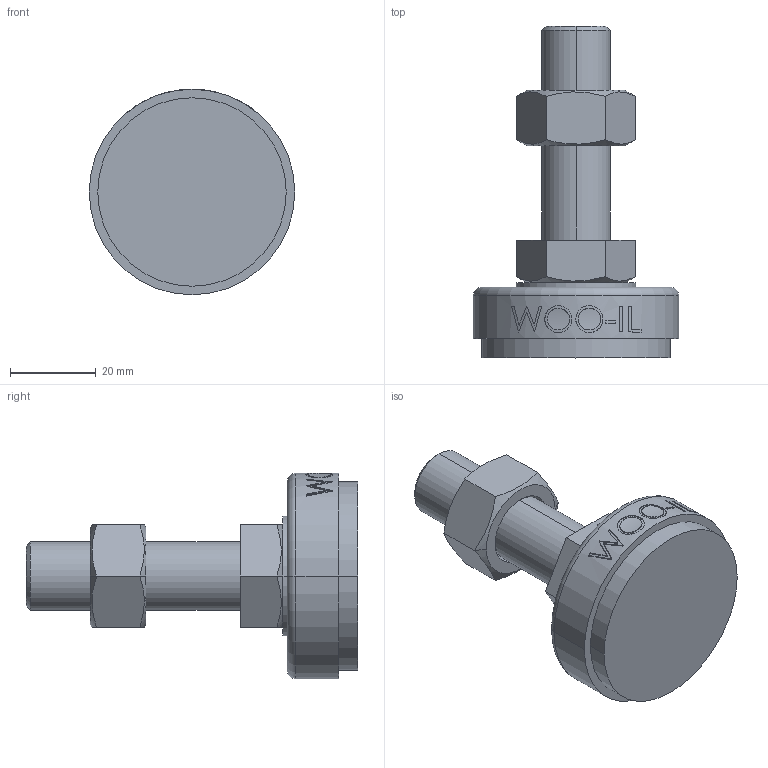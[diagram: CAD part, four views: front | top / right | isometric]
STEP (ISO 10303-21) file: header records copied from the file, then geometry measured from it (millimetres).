
FILE_DESCRIPTION (( 'STEP AP214' ), '1' );
FILE_NAME ('NS48-M16-50.step', '2021-01-11T05:44:31', ( '' ), ( '' ), 'SwSTEP 2.0', 'SolidWorks 2019', '' );
FILE_SCHEMA (( 'AUTOMOTIVE_DESIGN' ));
Length unit declared in the file: millimetre
Products named in the file (2): NS48-M16-50
Bounding box: 48 x 77.5 x 48 mm (x, y, z)
Volume: 47789.6 mm3; surface area: 12509.3 mm2
Topology: 3 solids, 3 shells, 96 faces, 223 edges, 144 vertices
Faces by surface type: plane 48, cylinder 18, bspline 16, cone 12, torus 2
Entity records: 4250 total; most frequent: CARTESIAN_POINT 2125, ORIENTED_EDGE 446, DIRECTION 381, EDGE_CURVE 223, VERTEX_POINT 144, AXIS2_PLACEMENT_3D 142, EDGE_LOOP 109, VECTOR 97
